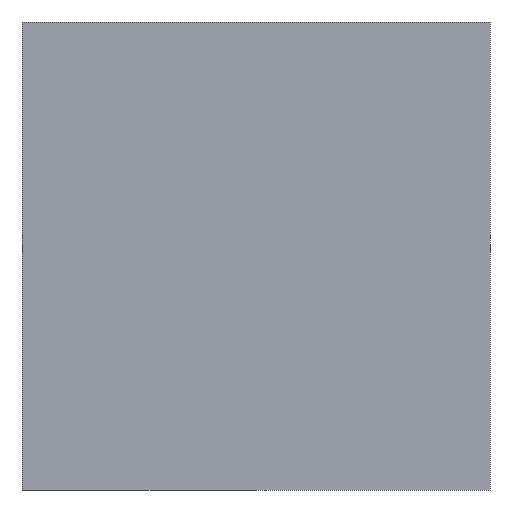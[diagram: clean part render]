
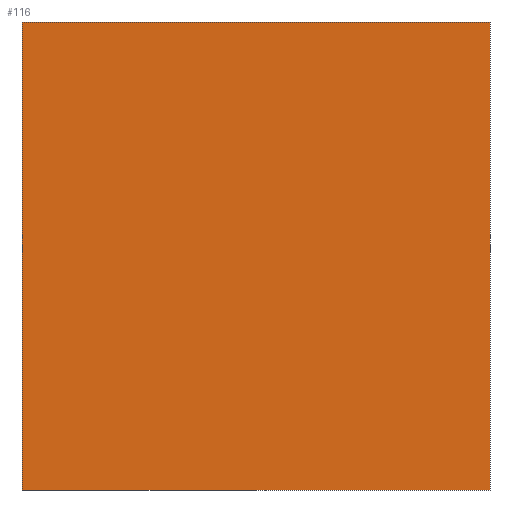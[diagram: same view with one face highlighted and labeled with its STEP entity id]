
A CAD part, left-side view. The second image highlights one B-rep face of the part: STEP entity #116.
In plain terms, the highlighted planar face has unit normal (-1, 0, 0).
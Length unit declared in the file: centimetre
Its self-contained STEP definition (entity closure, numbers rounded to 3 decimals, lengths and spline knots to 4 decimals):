
#1 = CARTESIAN_POINT ( 'NONE',  ( 0., 1000., 1000. ) ) ;
#22 = DIRECTION ( 'NONE',  ( 0., -1., 0. ) ) ;
#26 = EDGE_CURVE ( 'NONE', #143, #312, #169, .T. ) ;
#28 = EDGE_CURVE ( 'NONE', #221, #143, #310, .T. ) ;
#31 = DIRECTION ( 'NONE',  ( 0., 0., -1. ) ) ;
#45 = ORIENTED_EDGE ( 'NONE', *, *, #28, .T. ) ;
#65 = CARTESIAN_POINT ( 'NONE',  ( 0., 1000., 1000. ) ) ;
#72 = CARTESIAN_POINT ( 'NONE',  ( 0., 1000., 0. ) ) ;
#107 = FACE_OUTER_BOUND ( 'NONE', #452, .T. ) ;
#116 = ADVANCED_FACE ( 'NONE', ( #107 ), #443, .F. ) ;
#143 = VERTEX_POINT ( 'NONE', #72 ) ;
#157 = VERTEX_POINT ( 'NONE', #335 ) ;
#164 = AXIS2_PLACEMENT_3D ( 'NONE', #1, #367, #31 ) ;
#166 = CARTESIAN_POINT ( 'NONE',  ( 0., 1000., 0. ) ) ;
#169 = LINE ( 'NONE', #166, #421 ) ;
#173 = VECTOR ( 'NONE', #451, 100. ) ;
#178 = CARTESIAN_POINT ( 'NONE',  ( 0., 0., 1000. ) ) ;
#186 = ORIENTED_EDGE ( 'NONE', *, *, #292, .F. ) ;
#212 = VECTOR ( 'NONE', #458, 100. ) ;
#221 = VERTEX_POINT ( 'NONE', #65 ) ;
#225 = LINE ( 'NONE', #178, #426 ) ;
#236 = CARTESIAN_POINT ( 'NONE',  ( 0., 1000., 1000. ) ) ;
#269 = CARTESIAN_POINT ( 'NONE',  ( 0., 1000., 1000. ) ) ;
#292 = EDGE_CURVE ( 'NONE', #157, #312, #225, .T. ) ;
#310 = LINE ( 'NONE', #236, #212 ) ;
#312 = VERTEX_POINT ( 'NONE', #396 ) ;
#335 = CARTESIAN_POINT ( 'NONE',  ( 0., 0., 1000. ) ) ;
#343 = LINE ( 'NONE', #269, #173 ) ;
#354 = ORIENTED_EDGE ( 'NONE', *, *, #26, .T. ) ;
#356 = ORIENTED_EDGE ( 'NONE', *, *, #383, .F. ) ;
#364 = DIRECTION ( 'NONE',  ( 0., 0., -1. ) ) ;
#367 = DIRECTION ( 'NONE',  ( 1., 0., 0. ) ) ;
#383 = EDGE_CURVE ( 'NONE', #221, #157, #343, .T. ) ;
#396 = CARTESIAN_POINT ( 'NONE',  ( 0., 0., 0. ) ) ;
#421 = VECTOR ( 'NONE', #22, 100. ) ;
#426 = VECTOR ( 'NONE', #364, 100. ) ;
#443 = PLANE ( 'NONE',  #164 ) ;
#451 = DIRECTION ( 'NONE',  ( 0., -1., 0. ) ) ;
#452 = EDGE_LOOP ( 'NONE', ( #354, #186, #356, #45 ) ) ;
#458 = DIRECTION ( 'NONE',  ( 0., 0., -1. ) ) ;
